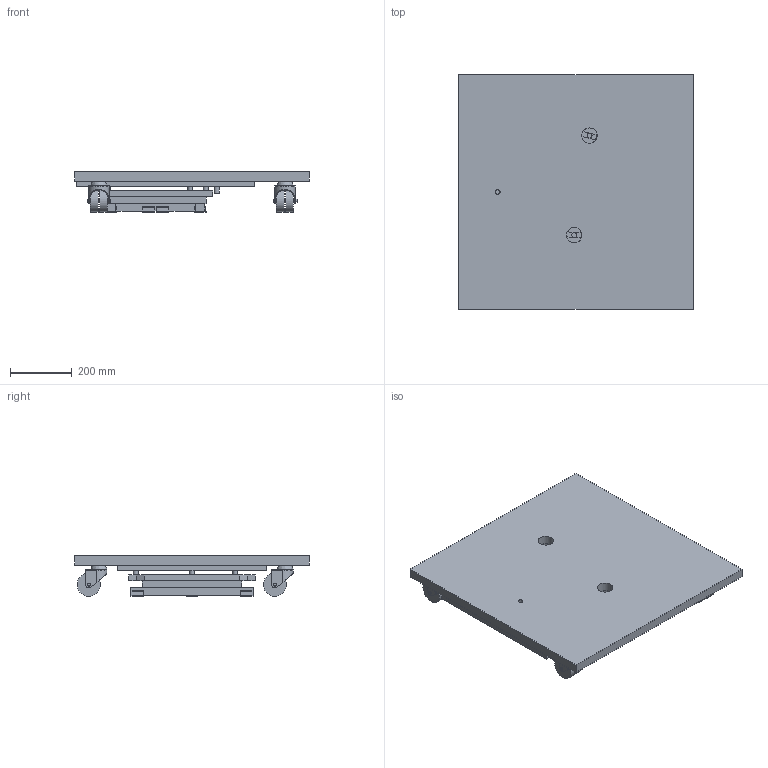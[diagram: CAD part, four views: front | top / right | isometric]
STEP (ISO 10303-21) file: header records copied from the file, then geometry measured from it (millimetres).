
FILE_DESCRIPTION( ( 'STEP AP214' ), '1' );
FILE_NAME( 'D:/YUG/2025/Missing_article_list/Creation/roomspin_800_90.stp', '2025-04-02T11:15:48', ( '' ), ( '' ), ' ', 'PARTsolutions', ' ' );
FILE_SCHEMA( ( 'AUTOMOTIVE_DESIGN { 1 0 10303 214 1 1 1 1 }' ) );
Length unit declared in the file: millimetre
Products named in the file (5): 181792831 dummy_rs800 _90; _base_element_800; _functional_element_800; _base_plate_800; _roles
Assembly tree (7 placements, depth 2):
  181792831 dummy_rs800 _90
    _base_element_800
    _functional_element_800
    _base_plate_800
    _roles  x4
Bounding box: 762 x 762 x 131 mm (x, y, z)
Volume: 29662800.1 mm3; surface area: 2558156.4 mm2
Topology: 7 solids, 15 shells, 428 faces, 1016 edges, 666 vertices
Faces by surface type: plane 286, cylinder 138, bspline 4
Full cylindrical faces by diameter (mm): 5 x16, 5.4 x13, 8 x6, 8.3 x2, 9 x4, 10 x20, 15 x1, 16 x4, 50 x4, 75 x8
Entity records: 9905 total; most frequent: CARTESIAN_POINT 1311, DIRECTION 1298, ORIENTED_EDGE 1176, EDGE_CURVE 588, LINE 436, VECTOR 436, AXIS2_PLACEMENT_3D 431, VERTEX_POINT 416
